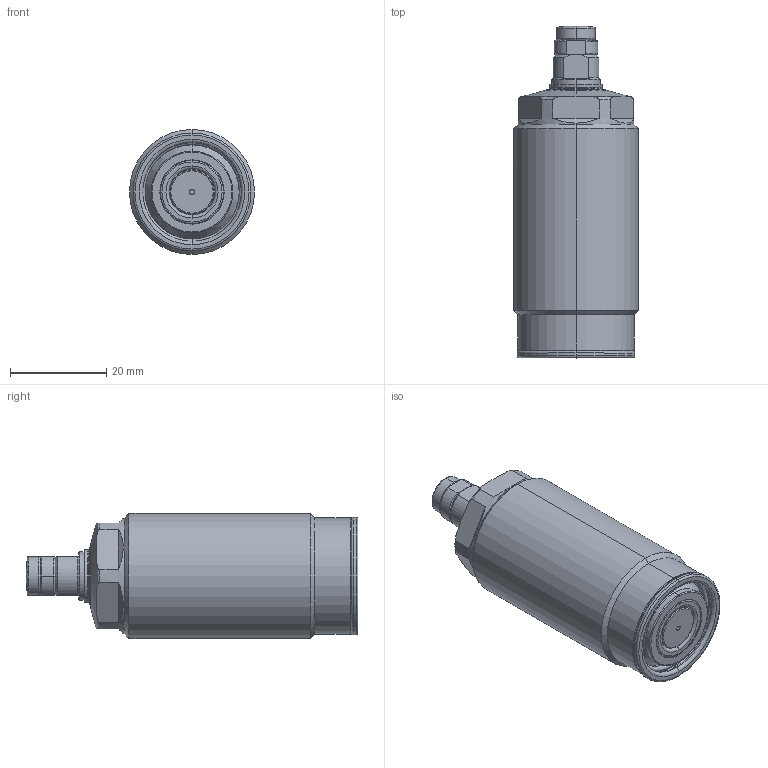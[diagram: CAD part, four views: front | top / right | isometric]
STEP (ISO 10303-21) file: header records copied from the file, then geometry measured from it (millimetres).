
FILE_DESCRIPTION(/* description */ (''),/* implementation_level */ '2;1');
FILE_NAME(/* name */ 'TSC26-M.stp',/* time_stamp */ '2026-02-04T13:59:25+08:00',/* author */ (''),/* organization */ (''),/* preprocessor_version */ 'ST-DEVELOPER v16.7',/* originating_system */ 'SIEMENS PLM Software NX 12.0',/* authorisation */ '');
FILE_SCHEMA (('AUTOMOTIVE_DESIGN { 1 0 10303 214 3 1 1 1 }'));
Length unit declared in the file: millimetre
Products named in the file (9): XLD-M6SP_Oring; XLD-M6SP_contactbolt; XLD-M6SP_pin; XLD-M6SP_pad; TSC26-M-01; AS568-020(90); TSC26-M-02; TSC26-M-03; LD0263-xM_step
Assembly tree (8 placements, depth 3):
  LD0263-xM_step
    TSC26-M-02
    AS568-020(90)
    TSC26-M-03
      XLD-M6SP_pad
      XLD-M6SP_pin
      XLD-M6SP_contactbolt
      XLD-M6SP_Oring
    TSC26-M-01
Bounding box: 26 x 69 x 26 mm (x, y, z)
Volume: 28246.4 mm3; surface area: 7986.4 mm2
Topology: 7 solids, 7 shells, 230 faces, 511 edges, 304 vertices
Faces by surface type: torus 72, cylinder 61, cone 47, plane 46, sphere 4
Entity records: 7209 total; most frequent: CARTESIAN_POINT 1780, DIRECTION 1229, ORIENTED_EDGE 1022, AXIS2_PLACEMENT_3D 543, EDGE_CURVE 511, VERTEX_POINT 304, CIRCLE 304, EDGE_LOOP 251
